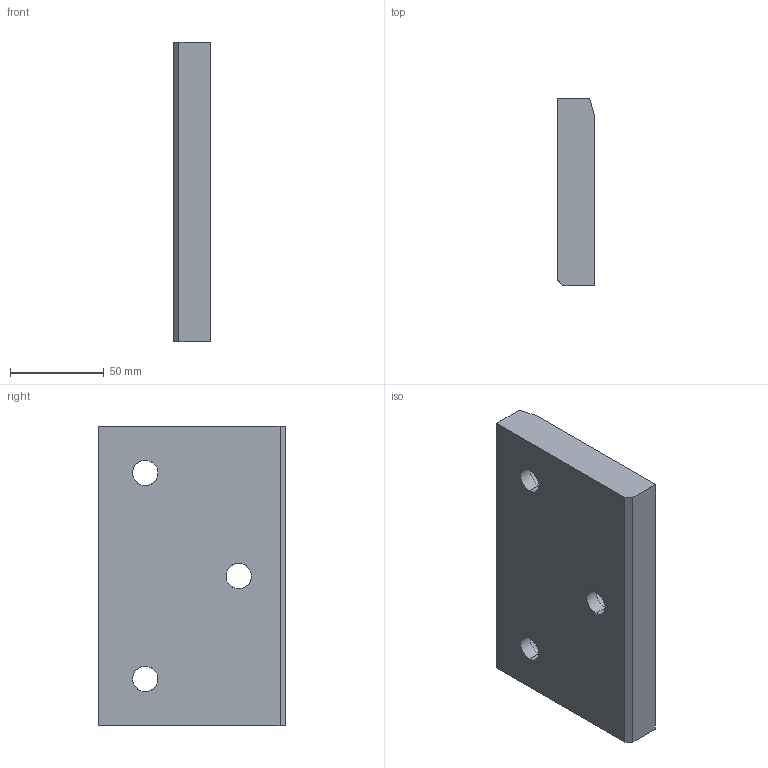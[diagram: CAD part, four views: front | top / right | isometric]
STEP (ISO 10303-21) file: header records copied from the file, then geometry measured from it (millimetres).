
FILE_DESCRIPTION(('CATIA V5 STEP Exchange'),'2;1');
FILE_NAME('C:\Users\Utente\Desktop\3D files A915\A915-160X100.stp','2020-04-07T18:38:06+00:00',('none'),('none'),'CATIA Version 5 Release 20 GA (IN-10)','CATIA V5 STEP AP203','none');
FILE_SCHEMA(('CONFIG_CONTROL_DESIGN'));
Length unit declared in the file: millimetre
Products named in the file (1): A915-160X100
Bounding box: 20 x 100 x 160 mm (x, y, z)
Volume: 301486.8 mm3; surface area: 43961.1 mm2
Topology: 1 solids, 1 shells, 30 faces, 99 edges, 74 vertices
Faces by surface type: cylinder 13, plane 11, torus 6
Entity records: 1437 total; most frequent: CARTESIAN_POINT 540, ORIENTED_EDGE 198, DIRECTION 135, EDGE_CURVE 99, AXIS2_PLACEMENT_3D 75, VERTEX_POINT 74, CIRCLE 44, EDGE_LOOP 39
